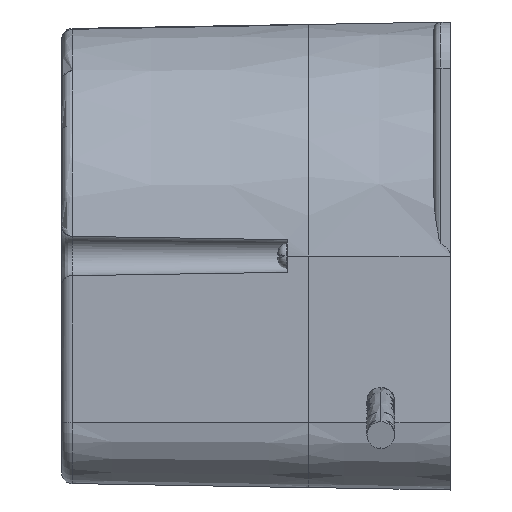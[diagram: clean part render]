
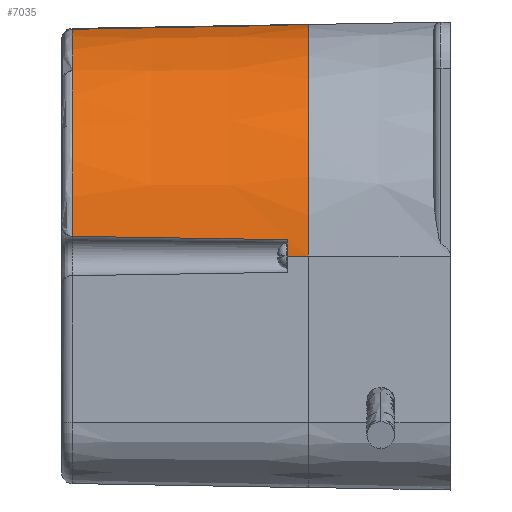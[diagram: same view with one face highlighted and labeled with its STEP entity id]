
A CAD part, left-side view. The second image highlights one B-rep face of the part: STEP entity #7035.
In plain terms, the highlighted conical face has half-angle 1 degrees and reference radius 32.672 mm.
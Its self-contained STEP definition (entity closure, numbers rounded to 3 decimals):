
#69 = LINE ( 'NONE', #5296, #4751 ) ;
#120 = DIRECTION ( 'NONE',  ( 0., 0., -1. ) ) ;
#244 = LINE ( 'NONE', #4831, #5338 ) ;
#254 = CARTESIAN_POINT ( 'NONE',  ( -2.777, 33.324, 31.97 ) ) ;
#280 = DIRECTION ( 'NONE',  ( 0., -1., 0.017 ) ) ;
#356 = CIRCLE ( 'NONE', #6564, 32.672 ) ;
#546 = CARTESIAN_POINT ( 'NONE',  ( -32.204, 20.912, 2.582 ) ) ;
#596 = CARTESIAN_POINT ( 'NONE',  ( -2.777, 33.324, 31.97 ) ) ;
#678 = CIRCLE ( 'NONE', #2261, 32.62 ) ;
#732 = DIRECTION ( 'NONE',  ( 0., -1., 0. ) ) ;
#758 = ORIENTED_EDGE ( 'NONE', *, *, #3822, .T. ) ;
#768 = CARTESIAN_POINT ( 'NONE',  ( 0., 33.326, 0. ) ) ;
#786 = CARTESIAN_POINT ( 'NONE',  ( -2.612, 22.83, 32.168 ) ) ;
#827 = CARTESIAN_POINT ( 'NONE',  ( -2.421, 10.716, 32.395 ) ) ;
#831 = DIRECTION ( 'NONE',  ( 0., 0., 1. ) ) ;
#875 = CARTESIAN_POINT ( 'NONE',  ( 0., 3., 0. ) ) ;
#967 = CARTESIAN_POINT ( 'NONE',  ( -31.97, 33.326, 2.777 ) ) ;
#1034 = CARTESIAN_POINT ( 'NONE',  ( -31.97, 33.324, 2.777 ) ) ;
#1073 = AXIS2_PLACEMENT_3D ( 'NONE', #875, #2004, #831 ) ;
#1232 = DIRECTION ( 'NONE',  ( 0., 0., 1. ) ) ;
#1364 = ORIENTED_EDGE ( 'NONE', *, *, #3404, .T. ) ;
#1378 = DIRECTION ( 'NONE',  ( 0., 0., 1. ) ) ;
#1397 = EDGE_CURVE ( 'NONE', #3594, #4152, #678, .T. ) ;
#1460 = CIRCLE ( 'NONE', #4273, 32.09 ) ;
#1554 = ORIENTED_EDGE ( 'NONE', *, *, #4837, .T. ) ;
#1569 = CARTESIAN_POINT ( 'NONE',  ( -32.538, 3., 2.3 ) ) ;
#1585 = CARTESIAN_POINT ( 'NONE',  ( -32.26, 17.926, 2.535 ) ) ;
#1631 = DIRECTION ( 'NONE',  ( 0., 1., 0. ) ) ;
#1714 = CARTESIAN_POINT ( 'NONE',  ( 0., 0., 0. ) ) ;
#1738 = EDGE_CURVE ( 'NONE', #2067, #4935, #2406, .T. ) ;
#1833 = CARTESIAN_POINT ( 'NONE',  ( -2.737, 30.816, 32.017 ) ) ;
#1884 = CARTESIAN_POINT ( 'NONE',  ( -32.62, 3., 0. ) ) ;
#1966 = CARTESIAN_POINT ( 'NONE',  ( -2.324, 4.543, 32.51 ) ) ;
#1999 = CARTESIAN_POINT ( 'NONE',  ( -2.518, 16.888, 32.279 ) ) ;
#2004 = DIRECTION ( 'NONE',  ( 0., 1., 0. ) ) ;
#2067 = VERTEX_POINT ( 'NONE', #1884 ) ;
#2190 = CARTESIAN_POINT ( 'NONE',  ( -32.146, 23.998, 2.63 ) ) ;
#2259 = CARTESIAN_POINT ( 'NONE',  ( -32.538, 3., 2.3 ) ) ;
#2261 = AXIS2_PLACEMENT_3D ( 'NONE', #4178, #4290, #1378 ) ;
#2383 = EDGE_LOOP ( 'NONE', ( #758, #3076, #1554, #1364, #4708, #3344, #3939, #5000, #4470, #3027 ) ) ;
#2392 = VERTEX_POINT ( 'NONE', #5240 ) ;
#2406 = CIRCLE ( 'NONE', #1073, 32.62 ) ;
#2578 = CARTESIAN_POINT ( 'NONE',  ( 0., 3., 32.62 ) ) ;
#2761 = CARTESIAN_POINT ( 'NONE',  ( -31.97, 33.324, 2.777 ) ) ;
#2836 = CARTESIAN_POINT ( 'NONE',  ( 0., 0., 32.672 ) ) ;
#3027 = ORIENTED_EDGE ( 'NONE', *, *, #4143, .T. ) ;
#3076 = ORIENTED_EDGE ( 'NONE', *, *, #7012, .T. ) ;
#3110 = CARTESIAN_POINT ( 'NONE',  ( -2.658, 25.8, 32.112 ) ) ;
#3283 = AXIS2_PLACEMENT_3D ( 'NONE', #4096, #732, #1232 ) ;
#3286 = CARTESIAN_POINT ( 'NONE',  ( -31.97, 33.325, 2.777 ) ) ;
#3288 = CARTESIAN_POINT ( 'NONE',  ( -2.777, 33.324, 31.97 ) ) ;
#3344 = ORIENTED_EDGE ( 'NONE', *, *, #4975, .T. ) ;
#3404 = EDGE_CURVE ( 'NONE', #5731, #4935, #5351, .T. ) ;
#3411 = CARTESIAN_POINT ( 'NONE',  ( -32.029, 30.171, 2.727 ) ) ;
#3493 = VERTEX_POINT ( 'NONE', #2836 ) ;
#3579 = CARTESIAN_POINT ( 'NONE',  ( -2.3, 3., 32.538 ) ) ;
#3594 = VERTEX_POINT ( 'NONE', #7125 ) ;
#3822 = EDGE_CURVE ( 'NONE', #5806, #2392, #6939, .T. ) ;
#3920 = CARTESIAN_POINT ( 'NONE',  ( -32.371, 11.956, 2.441 ) ) ;
#3935 = B_SPLINE_CURVE_WITH_KNOTS ( 'NONE', 3,
 ( #967, #3286, #7425, #1034 ),
 .UNSPECIFIED., .F., .F.,
 ( 4, 4 ),
 ( 0.001, 0.001 ),
 .UNSPECIFIED. ) ;
#3939 = ORIENTED_EDGE ( 'NONE', *, *, #5224, .T. ) ;
#4096 = CARTESIAN_POINT ( 'NONE',  ( 0., 0., 0. ) ) ;
#4143 = EDGE_CURVE ( 'NONE', #3594, #5806, #7397, .T. ) ;
#4152 = VERTEX_POINT ( 'NONE', #2578 ) ;
#4178 = CARTESIAN_POINT ( 'NONE',  ( 0., 3., 0. ) ) ;
#4222 = VERTEX_POINT ( 'NONE', #7438 ) ;
#4273 = AXIS2_PLACEMENT_3D ( 'NONE', #768, #5341, #120 ) ;
#4290 = DIRECTION ( 'NONE',  ( 0., 1., 0. ) ) ;
#4310 = CARTESIAN_POINT ( 'NONE',  ( -2.373, 7.629, 32.452 ) ) ;
#4337 = EDGE_CURVE ( 'NONE', #4152, #3493, #244, .T. ) ;
#4470 = ORIENTED_EDGE ( 'NONE', *, *, #1397, .F. ) ;
#4688 = CARTESIAN_POINT ( 'NONE',  ( -2.777, 33.326, 31.97 ) ) ;
#4708 = ORIENTED_EDGE ( 'NONE', *, *, #1738, .F. ) ;
#4751 = VECTOR ( 'NONE', #7044, 1000. ) ;
#4831 = CARTESIAN_POINT ( 'NONE',  ( 0., 0., 32.672 ) ) ;
#4837 = EDGE_CURVE ( 'NONE', #5645, #5731, #3935, .T. ) ;
#4921 = CARTESIAN_POINT ( 'NONE',  ( -2.349, 6.086, 32.481 ) ) ;
#4935 = VERTEX_POINT ( 'NONE', #1569 ) ;
#4940 = CARTESIAN_POINT ( 'NONE',  ( -31.97, 33.326, 2.777 ) ) ;
#4975 = EDGE_CURVE ( 'NONE', #2067, #4222, #69, .T. ) ;
#5000 = ORIENTED_EDGE ( 'NONE', *, *, #4337, .F. ) ;
#5096 = CARTESIAN_POINT ( 'NONE',  ( -31.99, 32.273, 2.76 ) ) ;
#5199 = CARTESIAN_POINT ( 'NONE',  ( -32.316, 14.941, 2.488 ) ) ;
#5224 = EDGE_CURVE ( 'NONE', #4222, #3493, #356, .T. ) ;
#5240 = CARTESIAN_POINT ( 'NONE',  ( -2.777, 33.326, 31.97 ) ) ;
#5296 = CARTESIAN_POINT ( 'NONE',  ( -32.672, 0., 0. ) ) ;
#5338 = VECTOR ( 'NONE', #280, 1000. ) ;
#5341 = DIRECTION ( 'NONE',  ( 0., -1., 0. ) ) ;
#5351 = B_SPLINE_CURVE_WITH_KNOTS ( 'NONE', 3,
 ( #2761, #5096, #6948, #3411, #7436, #2190, #546, #1585, #5199, #3920, #7403, #6373, #2259 ),
 .UNSPECIFIED., .F., .F.,
 ( 4, 3, 3, 3, 4 ),
 ( 0.001, 0.005, 0.014, 0.023, 0.032 ),
 .UNSPECIFIED. ) ;
#5483 = CARTESIAN_POINT ( 'NONE',  ( -2.698, 28.308, 32.065 ) ) ;
#5523 = CARTESIAN_POINT ( 'NONE',  ( -2.47, 13.802, 32.337 ) ) ;
#5645 = VERTEX_POINT ( 'NONE', #4940 ) ;
#5731 = VERTEX_POINT ( 'NONE', #7238 ) ;
#5806 = VERTEX_POINT ( 'NONE', #3288 ) ;
#5816 = CARTESIAN_POINT ( 'NONE',  ( -2.777, 33.324, 31.97 ) ) ;
#5996 = FACE_OUTER_BOUND ( 'NONE', #2383, .T. ) ;
#6373 = CARTESIAN_POINT ( 'NONE',  ( -32.483, 5.985, 2.347 ) ) ;
#6562 = CONICAL_SURFACE ( 'NONE', #3283, 32.672, 0.017 ) ;
#6564 = AXIS2_PLACEMENT_3D ( 'NONE', #1714, #1631, #6877 ) ;
#6607 = CARTESIAN_POINT ( 'NONE',  ( -2.565, 19.859, 32.223 ) ) ;
#6841 = CARTESIAN_POINT ( 'NONE',  ( -2.777, 33.325, 31.97 ) ) ;
#6877 = DIRECTION ( 'NONE',  ( 0., 0., 1. ) ) ;
#6939 = B_SPLINE_CURVE_WITH_KNOTS ( 'NONE', 3,
 ( #5816, #596, #6841, #4688 ),
 .UNSPECIFIED., .F., .F.,
 ( 4, 4 ),
 ( 0.03, 0.03 ),
 .UNSPECIFIED. ) ;
#6948 = CARTESIAN_POINT ( 'NONE',  ( -32.01, 31.222, 2.744 ) ) ;
#7012 = EDGE_CURVE ( 'NONE', #2392, #5645, #1460, .T. ) ;
#7035 = ADVANCED_FACE ( 'NONE', ( #5996 ), #6562, .T. ) ;
#7044 = DIRECTION ( 'NONE',  ( -0.017, -1., 0. ) ) ;
#7125 = CARTESIAN_POINT ( 'NONE',  ( -2.3, 3., 32.538 ) ) ;
#7238 = CARTESIAN_POINT ( 'NONE',  ( -31.97, 33.324, 2.777 ) ) ;
#7397 = B_SPLINE_CURVE_WITH_KNOTS ( 'NONE', 3,
 ( #3579, #1966, #4921, #4310, #827, #5523, #1999, #6607, #786, #3110, #5483, #1833, #254 ),
 .UNSPECIFIED., .F., .F.,
 ( 4, 3, 3, 3, 4 ),
 ( 0., 0.005, 0.014, 0.023, 0.03 ),
 .UNSPECIFIED. ) ;
#7403 = CARTESIAN_POINT ( 'NONE',  ( -32.427, 8.971, 2.394 ) ) ;
#7425 = CARTESIAN_POINT ( 'NONE',  ( -31.97, 33.324, 2.777 ) ) ;
#7436 = CARTESIAN_POINT ( 'NONE',  ( -32.088, 27.084, 2.679 ) ) ;
#7438 = CARTESIAN_POINT ( 'NONE',  ( -32.672, 0., 0. ) ) ;
